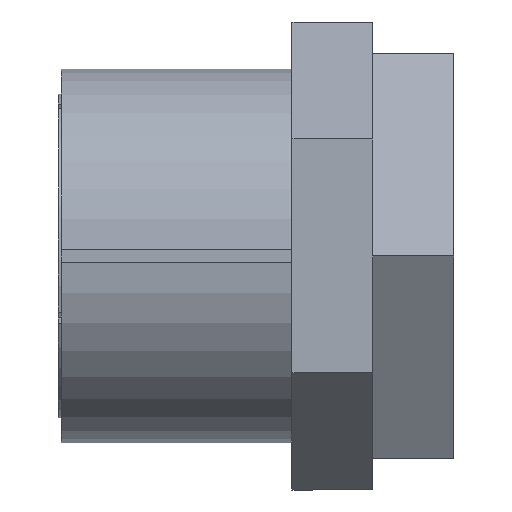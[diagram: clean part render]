
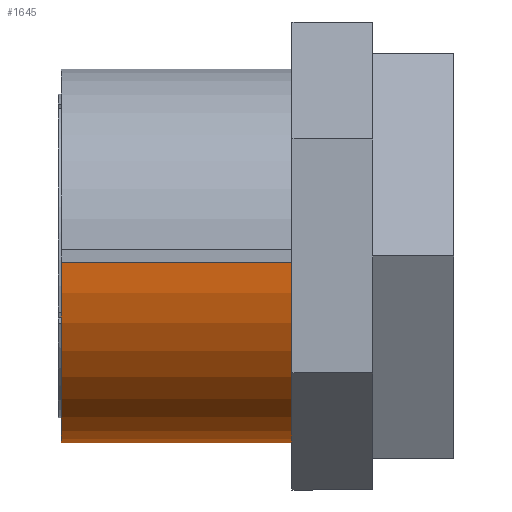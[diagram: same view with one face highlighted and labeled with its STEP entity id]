
A CAD part, front view. The second image highlights one B-rep face of the part: STEP entity #1645.
In plain terms, the highlighted cylindrical face has radius 30 mm (diameter 60 mm), a partial arc.
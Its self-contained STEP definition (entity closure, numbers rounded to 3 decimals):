
#176 = CIRCLE ( 'NONE', #1715, 30. ) ;
#177 = LINE ( 'NONE', #1248, #187 ) ;
#180 = LINE ( 'NONE', #1251, #188 ) ;
#183 = CIRCLE ( 'NONE', #964, 30. ) ;
#187 = VECTOR ( 'NONE', #1239, 1000. ) ;
#188 = VECTOR ( 'NONE', #1244, 1000. ) ;
#351 = EDGE_LOOP ( 'NONE', ( #446, #445, #444, #443 ) ) ;
#443 = ORIENTED_EDGE ( 'NONE', *, *, #800, .T. ) ;
#444 = ORIENTED_EDGE ( 'NONE', *, *, #795, .T. ) ;
#445 = ORIENTED_EDGE ( 'NONE', *, *, #798, .T. ) ;
#446 = ORIENTED_EDGE ( 'NONE', *, *, #799, .F. ) ;
#795 = EDGE_CURVE ( 'NONE', #1385, #1373, #183, .T. ) ;
#798 = EDGE_CURVE ( 'NONE', #1402, #1385, #180, .T. ) ;
#799 = EDGE_CURVE ( 'NONE', #1402, #1398, #176, .T. ) ;
#800 = EDGE_CURVE ( 'NONE', #1373, #1398, #177, .T. ) ;
#964 = AXIS2_PLACEMENT_3D ( 'NONE', #1255, #1254, #1253 ) ;
#1239 = DIRECTION ( 'NONE',  ( -1., 0., 0. ) ) ;
#1241 = DIRECTION ( 'NONE',  ( 0., 0., 1. ) ) ;
#1242 = DIRECTION ( 'NONE',  ( -1., 0., 0. ) ) ;
#1244 = DIRECTION ( 'NONE',  ( 1., 0., 0. ) ) ;
#1245 = CARTESIAN_POINT ( 'NONE',  ( 0.5, 0., 0. ) ) ;
#1248 = CARTESIAN_POINT ( 'NONE',  ( 0., -29.983, -1. ) ) ;
#1251 = CARTESIAN_POINT ( 'NONE',  ( 0., -1., -29.983 ) ) ;
#1253 = DIRECTION ( 'NONE',  ( 0., 0., 1. ) ) ;
#1254 = DIRECTION ( 'NONE',  ( -1., 0., 0. ) ) ;
#1255 = CARTESIAN_POINT ( 'NONE',  ( 37.5, 0., 0. ) ) ;
#1373 = VERTEX_POINT ( 'NONE', #1632 ) ;
#1385 = VERTEX_POINT ( 'NONE', #2055 ) ;
#1398 = VERTEX_POINT ( 'NONE', #1933 ) ;
#1402 = VERTEX_POINT ( 'NONE', #1891 ) ;
#1632 = CARTESIAN_POINT ( 'NONE',  ( 37.5, -29.983, -1. ) ) ;
#1645 = ADVANCED_FACE ( 'NONE', ( #2288 ), #2354, .T. ) ;
#1715 = AXIS2_PLACEMENT_3D ( 'NONE', #1245, #1242, #1241 ) ;
#1765 = AXIS2_PLACEMENT_3D ( 'NONE', #1890, #1911, #1960 ) ;
#1890 = CARTESIAN_POINT ( 'NONE',  ( 0., 0., 0. ) ) ;
#1891 = CARTESIAN_POINT ( 'NONE',  ( 0.5, -1., -29.983 ) ) ;
#1911 = DIRECTION ( 'NONE',  ( -1., 0., 0. ) ) ;
#1933 = CARTESIAN_POINT ( 'NONE',  ( 0.5, -29.983, -1. ) ) ;
#1960 = DIRECTION ( 'NONE',  ( 0., 0., 1. ) ) ;
#2055 = CARTESIAN_POINT ( 'NONE',  ( 37.5, -1., -29.983 ) ) ;
#2288 = FACE_OUTER_BOUND ( 'NONE', #351, .T. ) ;
#2354 = CYLINDRICAL_SURFACE ( 'NONE', #1765, 30. ) ;
